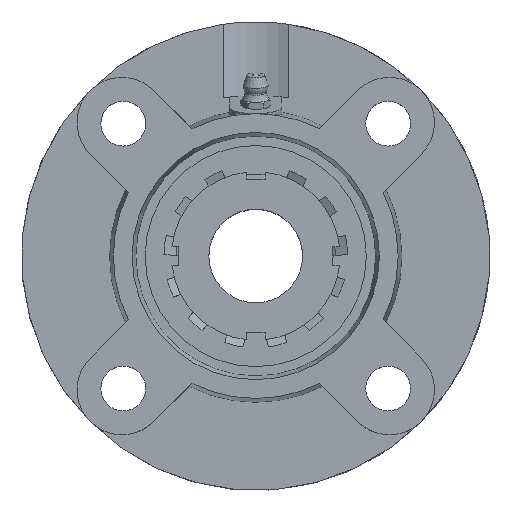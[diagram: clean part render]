
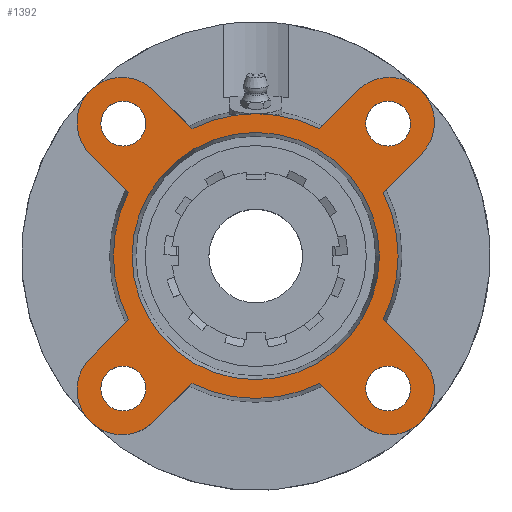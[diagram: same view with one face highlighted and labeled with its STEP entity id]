
A CAD part, top view. The second image highlights one B-rep face of the part: STEP entity #1392.
In plain terms, the highlighted planar face has unit normal (0, 0, 1).
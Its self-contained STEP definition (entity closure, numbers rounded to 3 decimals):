
#237=CARTESIAN_POINT('',(-29.355,-35.355,16.0));
#238=VERTEX_POINT('',#237);
#239=CARTESIAN_POINT('',(-35.355,-35.355,16.));
#240=DIRECTION('',(0.0,0.0,-1.0));
#241=DIRECTION('',(1.0,0.0,0.0));
#242=AXIS2_PLACEMENT_3D('',#239,#240,#241);
#243=CIRCLE('',#242,6.);
#244=EDGE_CURVE('',#238,#238,#243,.T.);
#265=CARTESIAN_POINT('',(-29.355,35.355,16.));
#266=VERTEX_POINT('',#265);
#267=CARTESIAN_POINT('',(-35.355,35.355,16.));
#268=DIRECTION('',(0.0,0.0,-1.0));
#269=DIRECTION('',(1.0,0.0,0.0));
#270=AXIS2_PLACEMENT_3D('',#267,#268,#269);
#271=CIRCLE('',#270,6.);
#272=EDGE_CURVE('',#266,#266,#271,.T.);
#293=CARTESIAN_POINT('',(41.355,35.355,16.));
#294=VERTEX_POINT('',#293);
#295=CARTESIAN_POINT('',(35.355,35.355,16.));
#296=DIRECTION('',(0.0,0.0,-1.0));
#297=DIRECTION('',(1.0,0.0,0.0));
#298=AXIS2_PLACEMENT_3D('',#295,#296,#297);
#299=CIRCLE('',#298,6.);
#300=EDGE_CURVE('',#294,#294,#299,.T.);
#321=CARTESIAN_POINT('',(41.355,-35.355,16.0));
#322=VERTEX_POINT('',#321);
#323=CARTESIAN_POINT('',(35.355,-35.355,16.));
#324=DIRECTION('',(0.0,0.0,-1.0));
#325=DIRECTION('',(1.0,0.0,0.0));
#326=AXIS2_PLACEMENT_3D('',#323,#324,#325);
#327=CIRCLE('',#326,6.);
#328=EDGE_CURVE('',#322,#322,#327,.T.);
#401=CARTESIAN_POINT('',(0.0,33.0,16.0));
#402=VERTEX_POINT('',#401);
#403=CARTESIAN_POINT('',(0.0,0.,16.));
#404=DIRECTION('',(0.0,0.0,-1.0));
#405=DIRECTION('',(0.0,1.0,0.0));
#406=AXIS2_PLACEMENT_3D('',#403,#404,#405);
#407=CIRCLE('',#406,33.);
#408=EDGE_CURVE('',#402,#402,#407,.T.);
#690=CARTESIAN_POINT('',(0.,38.,16.));
#691=VERTEX_POINT('',#690);
#848=CARTESIAN_POINT('',(-17.01,33.98,16.));
#849=VERTEX_POINT('',#848);
#863=CARTESIAN_POINT('',(0.0,0.,16.));
#864=DIRECTION('',(0.0,0.0,1.0));
#865=DIRECTION('',(0.0,-1.0,0.0));
#866=AXIS2_PLACEMENT_3D('',#863,#864,#865);
#867=CIRCLE('',#866,38.);
#868=EDGE_CURVE('',#691,#849,#867,.T.);
#878=CARTESIAN_POINT('',(-17.01,-33.98,16.));
#879=VERTEX_POINT('',#878);
#895=CARTESIAN_POINT('',(-27.224,-44.194,16.));
#896=VERTEX_POINT('',#895);
#897=CARTESIAN_POINT('',(-17.01,-33.98,16.));
#898=DIRECTION('',(-0.707,-0.707,0.));
#899=VECTOR('',#898,14.444);
#900=LINE('',#897,#899);
#901=EDGE_CURVE('',#879,#896,#900,.T.);
#925=CARTESIAN_POINT('',(-33.98,17.01,16.));
#926=VERTEX_POINT('',#925);
#942=CARTESIAN_POINT('',(-44.194,27.224,16.));
#943=VERTEX_POINT('',#942);
#944=CARTESIAN_POINT('',(-33.98,17.01,16.));
#945=DIRECTION('',(-0.707,0.707,0.));
#946=VECTOR('',#945,14.444);
#947=LINE('',#944,#946);
#948=EDGE_CURVE('',#926,#943,#947,.T.);
#972=CARTESIAN_POINT('',(33.98,-17.01,16.));
#973=VERTEX_POINT('',#972);
#989=CARTESIAN_POINT('',(44.194,-27.224,16.));
#990=VERTEX_POINT('',#989);
#991=CARTESIAN_POINT('',(33.98,-17.01,16.));
#992=DIRECTION('',(0.707,-0.707,0.));
#993=VECTOR('',#992,14.444);
#994=LINE('',#991,#993);
#995=EDGE_CURVE('',#973,#990,#994,.T.);
#1019=CARTESIAN_POINT('',(17.01,33.98,16.));
#1020=VERTEX_POINT('',#1019);
#1034=CARTESIAN_POINT('',(27.224,44.194,16.));
#1035=VERTEX_POINT('',#1034);
#1036=CARTESIAN_POINT('',(17.01,33.98,16.));
#1037=DIRECTION('',(0.707,0.707,0.));
#1038=VECTOR('',#1037,14.444);
#1039=LINE('',#1036,#1038);
#1040=EDGE_CURVE('',#1020,#1035,#1039,.T.);
#1059=CARTESIAN_POINT('',(33.98,17.01,16.));
#1060=VERTEX_POINT('',#1059);
#1082=CARTESIAN_POINT('',(44.194,27.224,16.));
#1083=VERTEX_POINT('',#1082);
#1090=CARTESIAN_POINT('',(44.194,27.224,16.));
#1091=DIRECTION('',(-0.707,-0.707,0.));
#1092=VECTOR('',#1091,14.444);
#1093=LINE('',#1090,#1092);
#1094=EDGE_CURVE('',#1083,#1060,#1093,.T.);
#1104=CARTESIAN_POINT('',(-44.194,-27.224,16.));
#1105=VERTEX_POINT('',#1104);
#1106=CARTESIAN_POINT('',(-35.709,-35.709,16.));
#1107=DIRECTION('',(0.0,0.0,-1.0));
#1108=DIRECTION('',(-0.707,0.707,0.0));
#1109=AXIS2_PLACEMENT_3D('',#1106,#1107,#1108);
#1110=CIRCLE('',#1109,12.);
#1111=EDGE_CURVE('',#896,#1105,#1110,.T.);
#1146=CARTESIAN_POINT('',(-33.98,-17.01,16.));
#1147=VERTEX_POINT('',#1146);
#1168=CARTESIAN_POINT('',(-44.194,-27.224,16.));
#1169=DIRECTION('',(0.707,0.707,0.));
#1170=VECTOR('',#1169,14.444);
#1171=LINE('',#1168,#1170);
#1172=EDGE_CURVE('',#1105,#1147,#1171,.T.);
#1182=CARTESIAN_POINT('',(-27.224,44.194,16.));
#1183=VERTEX_POINT('',#1182);
#1184=CARTESIAN_POINT('',(-35.709,35.709,16.));
#1185=DIRECTION('',(0.0,0.0,-1.0));
#1186=DIRECTION('',(0.707,0.707,0.0));
#1187=AXIS2_PLACEMENT_3D('',#1184,#1185,#1186);
#1188=CIRCLE('',#1187,12.);
#1189=EDGE_CURVE('',#943,#1183,#1188,.T.);
#1217=CARTESIAN_POINT('',(-27.224,44.194,16.));
#1218=DIRECTION('',(0.707,-0.707,0.));
#1219=VECTOR('',#1218,14.444);
#1220=LINE('',#1217,#1219);
#1221=EDGE_CURVE('',#1183,#849,#1220,.T.);
#1231=CARTESIAN_POINT('',(27.224,-44.194,16.));
#1232=VERTEX_POINT('',#1231);
#1233=CARTESIAN_POINT('',(35.709,-35.709,16.));
#1234=DIRECTION('',(0.0,0.0,-1.0));
#1235=DIRECTION('',(-0.707,-0.707,0.0));
#1236=AXIS2_PLACEMENT_3D('',#1233,#1234,#1235);
#1237=CIRCLE('',#1236,12.0);
#1238=EDGE_CURVE('',#990,#1232,#1237,.T.);
#1273=CARTESIAN_POINT('',(17.01,-33.98,16.));
#1274=VERTEX_POINT('',#1273);
#1295=CARTESIAN_POINT('',(27.224,-44.194,16.0));
#1296=DIRECTION('',(-0.707,0.707,0.));
#1297=VECTOR('',#1296,14.444);
#1298=LINE('',#1295,#1297);
#1299=EDGE_CURVE('',#1232,#1274,#1298,.T.);
#1309=CARTESIAN_POINT('',(35.709,35.709,16.));
#1310=DIRECTION('',(0.0,0.0,-1.0));
#1311=DIRECTION('',(0.707,-0.707,0.0));
#1312=AXIS2_PLACEMENT_3D('',#1309,#1310,#1311);
#1313=CIRCLE('',#1312,12.);
#1314=EDGE_CURVE('',#1035,#1083,#1313,.T.);
#1329=CARTESIAN_POINT('',(0.0,-19.,16.));
#1330=DIRECTION('',(0.0,0.0,1.0));
#1331=DIRECTION('',(1.0,0.0,0.0));
#1332=AXIS2_PLACEMENT_3D('',#1329,#1330,#1331);
#1333=PLANE('',#1332);
#1334=CARTESIAN_POINT('',(0.0,0.,16.));
#1335=DIRECTION('',(0.0,0.0,1.0));
#1336=DIRECTION('',(0.0,-1.0,0.0));
#1337=AXIS2_PLACEMENT_3D('',#1334,#1335,#1336);
#1338=CIRCLE('',#1337,38.);
#1339=EDGE_CURVE('',#879,#1274,#1338,.T.);
#1340=ORIENTED_EDGE('',*,*,#1339,.T.);
#1341=ORIENTED_EDGE('',*,*,#1299,.F.);
#1342=ORIENTED_EDGE('',*,*,#1238,.F.);
#1343=ORIENTED_EDGE('',*,*,#995,.F.);
#1344=CARTESIAN_POINT('',(0.0,0.,16.));
#1345=DIRECTION('',(0.0,0.0,1.0));
#1346=DIRECTION('',(0.0,-1.0,0.0));
#1347=AXIS2_PLACEMENT_3D('',#1344,#1345,#1346);
#1348=CIRCLE('',#1347,38.);
#1349=EDGE_CURVE('',#973,#1060,#1348,.T.);
#1350=ORIENTED_EDGE('',*,*,#1349,.T.);
#1351=ORIENTED_EDGE('',*,*,#1094,.F.);
#1352=ORIENTED_EDGE('',*,*,#1314,.F.);
#1353=ORIENTED_EDGE('',*,*,#1040,.F.);
#1354=CARTESIAN_POINT('',(0.0,0.,16.));
#1355=DIRECTION('',(0.0,0.0,1.0));
#1356=DIRECTION('',(0.0,-1.0,0.0));
#1357=AXIS2_PLACEMENT_3D('',#1354,#1355,#1356);
#1358=CIRCLE('',#1357,38.);
#1359=EDGE_CURVE('',#1020,#691,#1358,.T.);
#1360=ORIENTED_EDGE('',*,*,#1359,.T.);
#1361=ORIENTED_EDGE('',*,*,#868,.T.);
#1362=ORIENTED_EDGE('',*,*,#1221,.F.);
#1363=ORIENTED_EDGE('',*,*,#1189,.F.);
#1364=ORIENTED_EDGE('',*,*,#948,.F.);
#1365=CARTESIAN_POINT('',(0.0,0.,16.));
#1366=DIRECTION('',(0.0,0.0,1.0));
#1367=DIRECTION('',(0.0,-1.0,0.0));
#1368=AXIS2_PLACEMENT_3D('',#1365,#1366,#1367);
#1369=CIRCLE('',#1368,38.);
#1370=EDGE_CURVE('',#926,#1147,#1369,.T.);
#1371=ORIENTED_EDGE('',*,*,#1370,.T.);
#1372=ORIENTED_EDGE('',*,*,#1172,.F.);
#1373=ORIENTED_EDGE('',*,*,#1111,.F.);
#1374=ORIENTED_EDGE('',*,*,#901,.F.);
#1375=EDGE_LOOP('',(#1340,#1341,#1342,#1343,#1350,#1351,#1352,#1353,#1360,#1361,#1362,#1363,#1364,#1371,#1372,#1373,#1374));
#1376=FACE_OUTER_BOUND('',#1375,.T.);
#1377=ORIENTED_EDGE('',*,*,#244,.T.);
#1378=EDGE_LOOP('',(#1377));
#1379=FACE_BOUND('',#1378,.T.);
#1380=ORIENTED_EDGE('',*,*,#272,.T.);
#1381=EDGE_LOOP('',(#1380));
#1382=FACE_BOUND('',#1381,.T.);
#1383=ORIENTED_EDGE('',*,*,#300,.T.);
#1384=EDGE_LOOP('',(#1383));
#1385=FACE_BOUND('',#1384,.T.);
#1386=ORIENTED_EDGE('',*,*,#328,.T.);
#1387=EDGE_LOOP('',(#1386));
#1388=FACE_BOUND('',#1387,.T.);
#1389=ORIENTED_EDGE('',*,*,#408,.T.);
#1390=EDGE_LOOP('',(#1389));
#1391=FACE_BOUND('',#1390,.T.);
#1392=ADVANCED_FACE('',(#1376,#1379,#1382,#1385,#1388,#1391),#1333,.T.);
